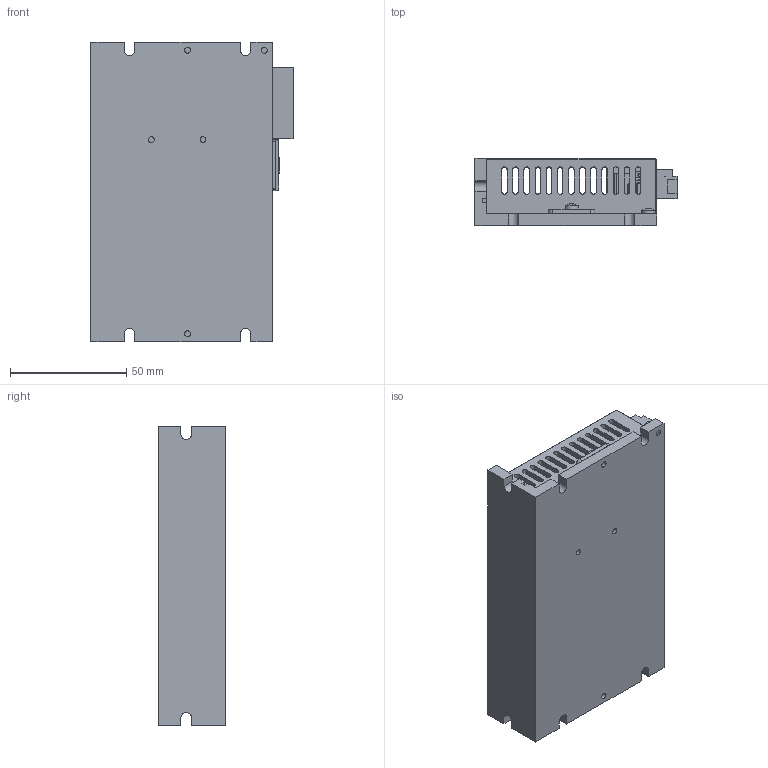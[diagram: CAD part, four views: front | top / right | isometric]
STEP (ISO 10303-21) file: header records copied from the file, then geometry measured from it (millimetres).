
FILE_DESCRIPTION (( 'STEP AP214' ), '1' );
FILE_NAME ('STF05_10-IP 3D.STEP', '2019-09-11T20:41:45', ( 'Kevin' ), ( 'Hewlett-Packard Company' ), 'SwSTEP 2.0', 'SolidWorks 2016', '' );
FILE_SCHEMA (( 'AUTOMOTIVE_DESIGN' ));
Length unit declared in the file: millimetre
Products named in the file (7): STF05_10-IP 3D; 4713101002111-A1-190911; 4299970002265.A2; 优瑞纳斯对插连接器-22016.10.20-6ping123; 50164620002016.10.20淕磁123; cross recessed pan head screws gb_GB_CROSS_SCREWS_TYPE1 M3X4-4  H type-N; ST-BUS-10A奻裔-D-161202123
Assembly tree (12 placements, depth 2):
  STF05_10-IP 3D
    ST-BUS-10A奻裔-D-161202123
    cross recessed pan head screws gb_GB_CROSS_SCREWS_TYPE1 M3X4-4  H type-N  x7
    50164620002016.10.20淕磁123
    优瑞纳斯对插连接器-22016.10.20-6ping123
    4299970002265.A2
    4713101002111-A1-190911
Bounding box: 87.04 x 29 x 129 mm (x, y, z)
Volume: 117550.2 mm3; surface area: 96969.5 mm2
Topology: 20 solids, 20 shells, 3277 faces, 8841 edges, 5757 vertices
Faces by surface type: plane 2273, cylinder 730, bspline 249, cone 21, torus 4
Full cylindrical faces by diameter (mm): 0.9 x20, 1 x36, 1.1 x2, 1.2 x24, 1.3 x6, 1.65 x3, 2.5 x7, 2.9 x2, 3 x7, 3.25 x2, 3.3 x4, 3.5 x4, 3.9 x6, 4.2 x6, 5 x2, 5.6 x7
Entity records: 111733 total; most frequent: CARTESIAN_POINT 29043, ORIENTED_EDGE 16712, DIRECTION 14443, EDGE_CURVE 8356, VECTOR 6473, LINE 6473, VERTEX_POINT 5531, AXIS2_PLACEMENT_3D 3985
